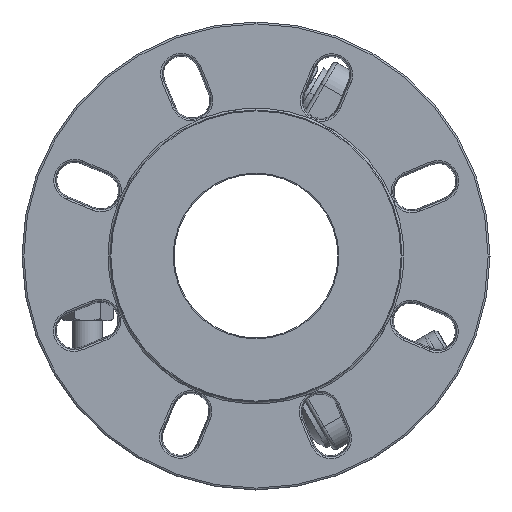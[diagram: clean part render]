
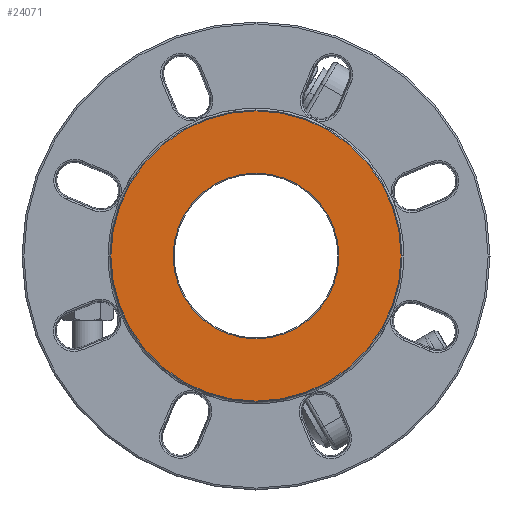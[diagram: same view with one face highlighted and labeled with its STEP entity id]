
A CAD part, left-side view. The second image highlights one B-rep face of the part: STEP entity #24071.
In plain terms, the highlighted planar face has unit normal (-1, 0, 0).
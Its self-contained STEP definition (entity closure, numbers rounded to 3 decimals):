
#5490=CARTESIAN_POINT('',(-20.339,0.,0.));
#5491=DIRECTION('',(-1.,0.,0.));
#5492=DIRECTION('',(0.,-1.,0.));
#5493=AXIS2_PLACEMENT_3D('',#5490,#5491,#5492);
#5495=CARTESIAN_POINT('',(-20.339,0.,0.));
#5496=DIRECTION('',(-1.,0.,0.));
#5497=DIRECTION('',(0.,1.,0.));
#5498=AXIS2_PLACEMENT_3D('',#5495,#5496,#5497);
#5500=CARTESIAN_POINT('',(-20.339,0.,0.));
#5501=DIRECTION('',(1.,0.,0.));
#5502=DIRECTION('',(0.,-1.,0.));
#5503=AXIS2_PLACEMENT_3D('',#5500,#5501,#5502);
#5505=CARTESIAN_POINT('',(-20.339,0.,0.));
#5506=DIRECTION('',(1.,0.,0.));
#5507=DIRECTION('',(0.,1.,0.));
#5508=AXIS2_PLACEMENT_3D('',#5505,#5506,#5507);
#16042=CARTESIAN_POINT('',(-20.339,-44.25,0.));
#16043=CARTESIAN_POINT('',(-20.339,44.25,0.));
#16044=VERTEX_POINT('',#16042);
#16045=VERTEX_POINT('',#16043);
#16050=CARTESIAN_POINT('',(-20.339,-77.509,
0.));
#16051=CARTESIAN_POINT('',(-20.339,77.509,
0.));
#16052=VERTEX_POINT('',#16050);
#16053=VERTEX_POINT('',#16051);
#24056=CARTESIAN_POINT('',(-20.339,0.,0.));
#24057=DIRECTION('',(1.,0.,0.));
#24058=DIRECTION('',(0.,-1.,0.));
#24059=AXIS2_PLACEMENT_3D('',#24056,#24057,#24058);
#24060=PLANE('',#24059);
#24061=ORIENTED_EDGE('',*,*,#23107,.T.);
#24062=ORIENTED_EDGE('',*,*,#23122,.T.);
#24063=EDGE_LOOP('',(#24061,#24062));
#24064=FACE_OUTER_BOUND('',#24063,.F.);
#24066=ORIENTED_EDGE('',*,*,#24065,.T.);
#24068=ORIENTED_EDGE('',*,*,#24067,.T.);
#24069=EDGE_LOOP('',(#24066,#24068));
#24070=FACE_BOUND('',#24069,.F.);
#24071=ADVANCED_FACE('',(#24064,#24070),#24060,.F.);
#5494=CIRCLE('',#5493,44.25);
#5499=CIRCLE('',#5498,44.25);
#5504=CIRCLE('',#5503,77.509);
#5509=CIRCLE('',#5508,77.509);
#23107=EDGE_CURVE('',#16052,#16053,#5504,.T.);
#23122=EDGE_CURVE('',#16053,#16052,#5509,.T.);
#24065=EDGE_CURVE('',#16044,#16045,#5494,.T.);
#24067=EDGE_CURVE('',#16045,#16044,#5499,.T.);
